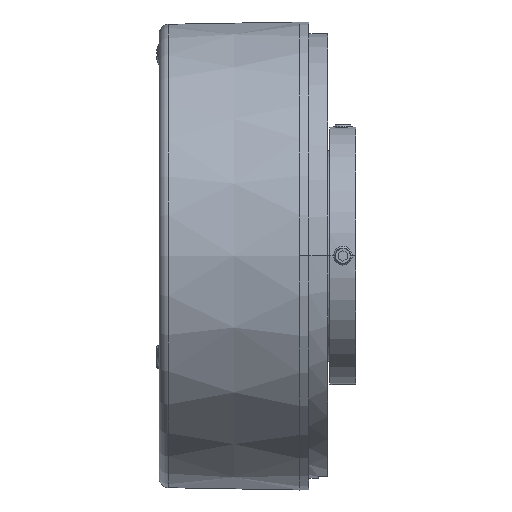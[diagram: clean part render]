
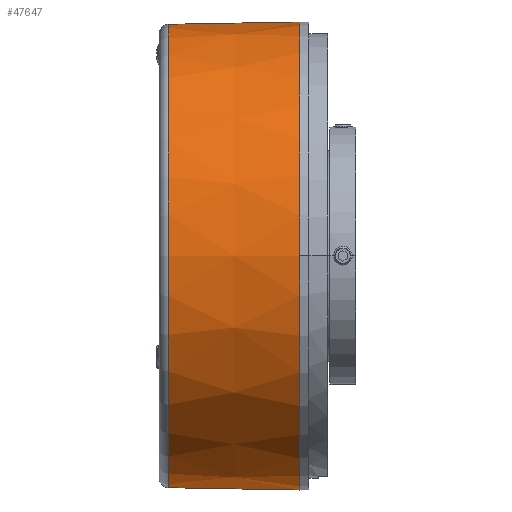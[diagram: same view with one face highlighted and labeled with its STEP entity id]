
A CAD part, top view. The second image highlights one B-rep face of the part: STEP entity #47647.
In plain terms, the highlighted conical face has half-angle 1 degrees and reference radius 50 mm.
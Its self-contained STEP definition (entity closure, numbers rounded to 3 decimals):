
#139 = DIRECTION ( 'NONE',  ( 0., 1., 0. ) ) ;
#140 = DIRECTION ( 'NONE',  ( 1., 0., 0. ) ) ;
#141 = CARTESIAN_POINT ( 'NONE',  ( -20.808, -3.167, 0. ) ) ;
#142 = AXIS2_PLACEMENT_3D ( 'NONE', #141, #140, #139 ) ;
#143 = CIRCLE ( 'NONE', #142, 49.511 ) ;
#155 = CARTESIAN_POINT ( 'NONE',  ( -20.808, -52.677, 0. ) ) ;
#26971 = CARTESIAN_POINT ( 'NONE',  ( 7.227, 46.833, 0. ) ) ;
#26999 = DIRECTION ( 'NONE',  ( 1., 0.017, 0. ) ) ;
#27000 = VECTOR ( 'NONE', #26999, 1000. ) ;
#27001 = CARTESIAN_POINT ( 'NONE',  ( 7.227, 46.833, 0. ) ) ;
#27002 = LINE ( 'NONE', #27001, #27000 ) ;
#27025 = FACE_OUTER_BOUND ( 'NONE', #47679, .T. ) ;
#27026 = DIRECTION ( 'NONE',  ( 1., -0.017, 0. ) ) ;
#27027 = VECTOR ( 'NONE', #27026, 1000. ) ;
#27028 = CARTESIAN_POINT ( 'NONE',  ( 7.227, -53.167, 0. ) ) ;
#27029 = LINE ( 'NONE', #27028, #27027 ) ;
#27033 = CARTESIAN_POINT ( 'NONE',  ( 7.227, -53.167, 0. ) ) ;
#27041 = DIRECTION ( 'NONE',  ( 0., 1., 0. ) ) ;
#27042 = DIRECTION ( 'NONE',  ( -1., 0., 0. ) ) ;
#27043 = CARTESIAN_POINT ( 'NONE',  ( 7.227, -3.167, 0. ) ) ;
#27044 = AXIS2_PLACEMENT_3D ( 'NONE', #27043, #27042, #27041 ) ;
#27045 = CIRCLE ( 'NONE', #27044, 50. ) ;
#27069 = DIRECTION ( 'NONE',  ( 0., -1., 0. ) ) ;
#27070 = DIRECTION ( 'NONE',  ( 1., 0., 0. ) ) ;
#27071 = CARTESIAN_POINT ( 'NONE',  ( 7.227, -3.167, 0. ) ) ;
#27072 = AXIS2_PLACEMENT_3D ( 'NONE', #27071, #27070, #27069 ) ;
#27074 = CONICAL_SURFACE ( 'NONE', #27072, 50., 0.017 ) ;
#44540 = CARTESIAN_POINT ( 'NONE',  ( -20.808, 46.344, 0. ) ) ;
#44953 = VERTEX_POINT ( 'NONE', #44540 ) ;
#44993 = VERTEX_POINT ( 'NONE', #155 ) ;
#44996 = EDGE_CURVE ( 'NONE', #44953, #44993, #143, .T. ) ;
#47620 = VERTEX_POINT ( 'NONE', #26971 ) ;
#47627 = EDGE_CURVE ( 'NONE', #44953, #47620, #27002, .T. ) ;
#47632 = ORIENTED_EDGE ( 'NONE', *, *, #47646, .T. ) ;
#47633 = EDGE_CURVE ( 'NONE', #47639, #47620, #27045, .T. ) ;
#47639 = VERTEX_POINT ( 'NONE', #27033 ) ;
#47646 = EDGE_CURVE ( 'NONE', #44993, #47639, #27029, .T. ) ;
#47647 = ADVANCED_FACE ( 'NONE', ( #27025 ), #27074, .T. ) ;
#47650 = ORIENTED_EDGE ( 'NONE', *, *, #44996, .T. ) ;
#47654 = ORIENTED_EDGE ( 'NONE', *, *, #47627, .F. ) ;
#47676 = ORIENTED_EDGE ( 'NONE', *, *, #47633, .T. ) ;
#47679 = EDGE_LOOP ( 'NONE', ( #47654, #47650, #47632, #47676 ) ) ;
